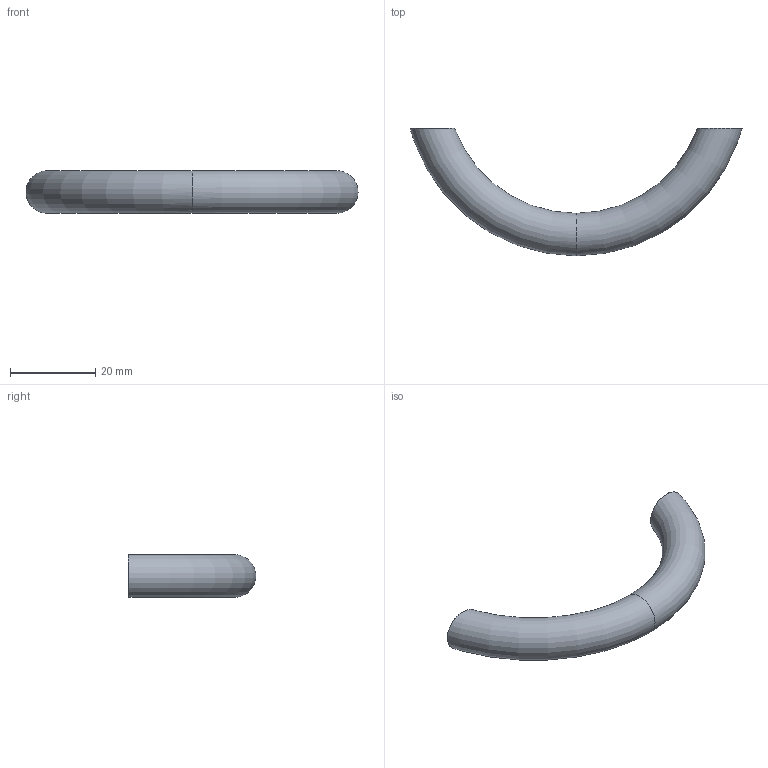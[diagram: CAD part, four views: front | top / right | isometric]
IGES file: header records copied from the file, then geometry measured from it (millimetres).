
Start section: Data from Parasolid IGES Translator 15.0.47, Copyright(c) 2006 Siemens P LM Software. All Rights Reserved.
Global section: file name:  9070440.igs; native system:  By UGS Corp.; preprocessor: XPlus GENERIC/IGES 3.0; author: Noname; organization: Noname; date: 20140122.155156; units: millimetre
Bounding box: 78 x 30 x 10 mm (x, y, z)
Surface area: 3143.6 mm2 (no closed solid volume)
Topology: 0 solids, 0 shells, 8 faces, 22 edges, 16 vertices
Faces by surface type: revolution 4, extrusion 4
